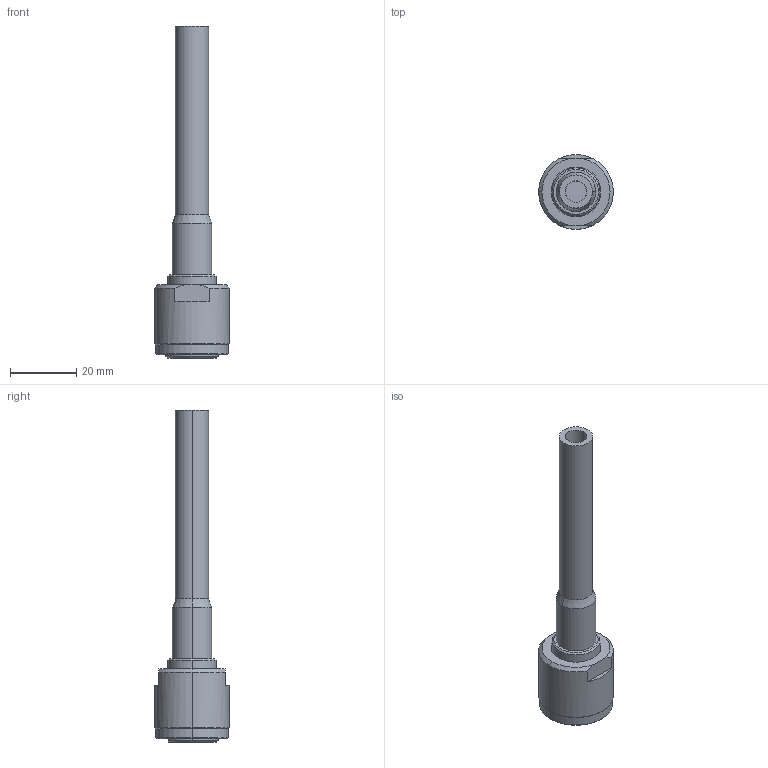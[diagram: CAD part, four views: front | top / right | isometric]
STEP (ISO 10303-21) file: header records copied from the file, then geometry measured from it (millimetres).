
FILE_DESCRIPTION (( 'STEP AP203' ), '1' );
FILE_NAME ('C14-1219X Cable 19 Pin.STEP', '2025-09-17T22:10:47', ( '' ), ( '' ), 'SwSTEP 2.0', 'SolidWorks 2024', '' );
FILE_SCHEMA (( 'CONFIG_CONTROL_DESIGN' ));
Length unit declared in the file: millimetre
Products named in the file (1): C14-1219X Cable 19 Pin
Bounding box: 22.5 x 22.5 x 100 mm (x, y, z)
Volume: 10960.2 mm3; surface area: 10432.5 mm2
Topology: 3 solids, 22 shells, 477 faces, 982 edges, 612 vertices
Faces by surface type: cylinder 235, plane 114, cone 109, torus 16, bspline 3
Entity records: 14140 total; most frequent: CARTESIAN_POINT 3522, DIRECTION 2464, ORIENTED_EDGE 1964, AXIS2_PLACEMENT_3D 1055, EDGE_CURVE 982, VERTEX_POINT 612, EDGE_LOOP 582, CIRCLE 580
